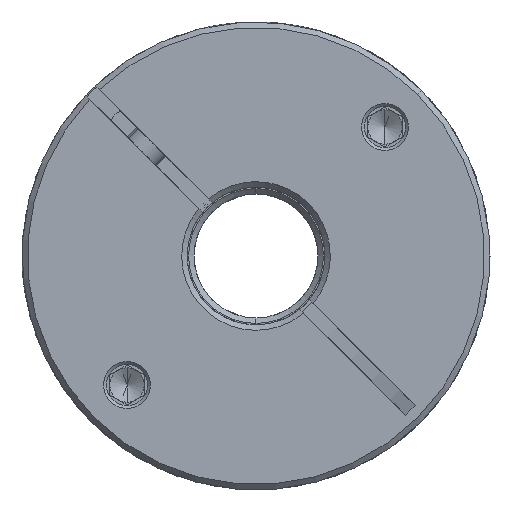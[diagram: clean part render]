
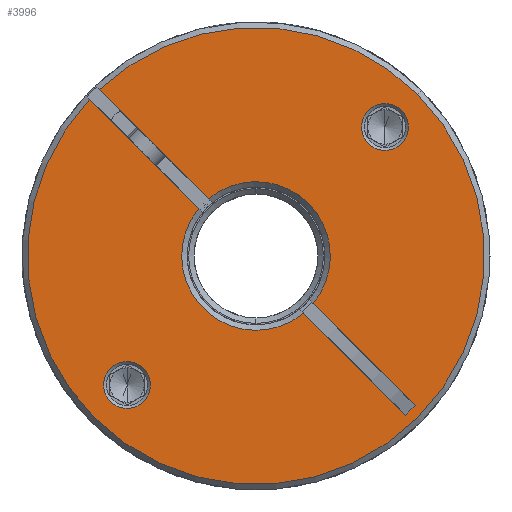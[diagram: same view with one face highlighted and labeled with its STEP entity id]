
A CAD part, front view. The second image highlights one B-rep face of the part: STEP entity #3996.
In plain terms, the highlighted planar face has unit normal (0, -1, 0).
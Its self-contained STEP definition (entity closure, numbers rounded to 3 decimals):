
#21 = VERTEX_POINT ( 'NONE', #18748 ) ;
#309 = CARTESIAN_POINT ( 'NONE',  ( 18.988, -67.045, 44.862 ) ) ;
#318 = ORIENTED_EDGE ( 'NONE', *, *, #1348, .T. ) ;
#447 = EDGE_CURVE ( 'NONE', #4393, #10721, #701, .T. ) ;
#610 = DIRECTION ( 'NONE',  ( 0., 1., 0. ) ) ;
#701 = LINE ( 'NONE', #1690, #19742 ) ;
#712 = VERTEX_POINT ( 'NONE', #11957 ) ;
#847 = ORIENTED_EDGE ( 'NONE', *, *, #16113, .T. ) ;
#848 = CARTESIAN_POINT ( 'NONE',  ( -2.735, -67.045, 68. ) ) ;
#978 = ORIENTED_EDGE ( 'NONE', *, *, #2399, .T. ) ;
#1004 = FACE_BOUND ( 'NONE', #16289, .T. ) ;
#1017 = VERTEX_POINT ( 'NONE', #21255 ) ;
#1144 = CARTESIAN_POINT ( 'NONE',  ( 4.162, -67.045, 59.689 ) ) ;
#1190 = CARTESIAN_POINT ( 'NONE',  ( 5.576, -67.045, 61.103 ) ) ;
#1337 = DIRECTION ( 'NONE',  ( 0.707, 0., 0.707 ) ) ;
#1348 = EDGE_CURVE ( 'NONE', #1017, #2615, #18585, .T. ) ;
#1384 = CARTESIAN_POINT ( 'NONE',  ( 18.988, -67.045, 44.862 ) ) ;
#1405 = VERTEX_POINT ( 'NONE', #9029 ) ;
#1513 = CARTESIAN_POINT ( 'NONE',  ( -19.069, -67.045, 51.666 ) ) ;
#1681 = EDGE_CURVE ( 'NONE', #3673, #9647, #12831, .T. ) ;
#1690 = CARTESIAN_POINT ( 'NONE',  ( -2.028, -67.045, 68.707 ) ) ;
#1787 = AXIS2_PLACEMENT_3D ( 'NONE', #848, #17427, #19110 ) ;
#2217 = ORIENTED_EDGE ( 'NONE', *, *, #447, .T. ) ;
#2399 = EDGE_CURVE ( 'NONE', #712, #4393, #18026, .T. ) ;
#2543 = ORIENTED_EDGE ( 'NONE', *, *, #5592, .T. ) ;
#2615 = VERTEX_POINT ( 'NONE', #11630 ) ;
#2654 = EDGE_CURVE ( 'NONE', #3931, #14508, #9132, .T. ) ;
#2860 = DIRECTION ( 'NONE',  ( 0.707, 0., 0.707 ) ) ;
#3142 = DIRECTION ( 'NONE',  ( 0., 1., 0. ) ) ;
#3223 = AXIS2_PLACEMENT_3D ( 'NONE', #4805, #3142, #13022 ) ;
#3385 = DIRECTION ( 'NONE',  ( 0.707, 0., -0.707 ) ) ;
#3673 = VERTEX_POINT ( 'NONE', #11686 ) ;
#3829 = DIRECTION ( 'NONE',  ( 0.707, 0., 0.707 ) ) ;
#3871 = ORIENTED_EDGE ( 'NONE', *, *, #14411, .T. ) ;
#3931 = VERTEX_POINT ( 'NONE', #13852 ) ;
#3947 = ORIENTED_EDGE ( 'NONE', *, *, #18180, .T. ) ;
#3996 = ADVANCED_FACE ( 'NONE', ( #1004, #9329, #13253 ), #8970, .T. ) ;
#4393 = VERTEX_POINT ( 'NONE', #1190 ) ;
#4509 = VECTOR ( 'NONE', #14992, 1000. ) ;
#4564 = DIRECTION ( 'NONE',  ( 0.707, 0., -0.707 ) ) ;
#4805 = CARTESIAN_POINT ( 'NONE',  ( -2.735, -67.045, 68. ) ) ;
#4922 = ORIENTED_EDGE ( 'NONE', *, *, #17337, .T. ) ;
#4955 = DIRECTION ( 'NONE',  ( 0., 1., 0. ) ) ;
#5162 = EDGE_CURVE ( 'NONE', #19528, #21, #13461, .T. ) ;
#5214 = CARTESIAN_POINT ( 'NONE',  ( 20.402, -67.045, 46.277 ) ) ;
#5245 = ORIENTED_EDGE ( 'NONE', *, *, #5162, .T. ) ;
#5434 = CIRCLE ( 'NONE', #11884, 10.8 ) ;
#5461 = EDGE_CURVE ( 'NONE', #14692, #1017, #16073, .T. ) ;
#5592 = EDGE_CURVE ( 'NONE', #14508, #3931, #12156, .T. ) ;
#5685 = CARTESIAN_POINT ( 'NONE',  ( -2.735, -67.045, 68. ) ) ;
#5924 = ORIENTED_EDGE ( 'NONE', *, *, #2654, .T. ) ;
#6502 = VECTOR ( 'NONE', #4564, 1000. ) ;
#6804 = CARTESIAN_POINT ( 'NONE',  ( -3.442, -67.045, 67.293 ) ) ;
#6845 = CARTESIAN_POINT ( 'NONE',  ( 16.003, -67.045, 86.738 ) ) ;
#7353 = DIRECTION ( 'NONE',  ( 0.707, 0., 0.707 ) ) ;
#7571 = EDGE_LOOP ( 'NONE', ( #2543, #5924 ) ) ;
#7765 = AXIS2_PLACEMENT_3D ( 'NONE', #11986, #13811, #20456 ) ;
#8057 = AXIS2_PLACEMENT_3D ( 'NONE', #8826, #610, #3829 ) ;
#8718 = EDGE_CURVE ( 'NONE', #21585, #19301, #9220, .T. ) ;
#8826 = CARTESIAN_POINT ( 'NONE',  ( 16.003, -67.045, 86.738 ) ) ;
#8970 = PLANE ( 'NONE',  #11996 ) ;
#9029 = CARTESIAN_POINT ( 'NONE',  ( -9.632, -67.045, 76.311 ) ) ;
#9132 = CIRCLE ( 'NONE', #7765, 3.4 ) ;
#9220 = LINE ( 'NONE', #14485, #19140 ) ;
#9329 = FACE_BOUND ( 'NONE', #7571, .T. ) ;
#9358 = DIRECTION ( 'NONE',  ( 0., -1., 0. ) ) ;
#9617 = CARTESIAN_POINT ( 'NONE',  ( -11.046, -67.045, 74.897 ) ) ;
#9647 = VERTEX_POINT ( 'NONE', #9617 ) ;
#10469 = CARTESIAN_POINT ( 'NONE',  ( -2.735, -67.045, 68. ) ) ;
#10721 = VERTEX_POINT ( 'NONE', #5214 ) ;
#11389 = ORIENTED_EDGE ( 'NONE', *, *, #12342, .T. ) ;
#11392 = CARTESIAN_POINT ( 'NONE',  ( -2.028, -67.045, 68.707 ) ) ;
#11630 = CARTESIAN_POINT ( 'NONE',  ( -25.493, -67.045, 92.172 ) ) ;
#11686 = CARTESIAN_POINT ( 'NONE',  ( -26.908, -67.045, 90.758 ) ) ;
#11884 = AXIS2_PLACEMENT_3D ( 'NONE', #17260, #18925, #12313 ) ;
#11941 = DIRECTION ( 'NONE',  ( -0.707, 0., -0.707 ) ) ;
#11957 = CARTESIAN_POINT ( 'NONE',  ( 4.902, -67.045, 75.637 ) ) ;
#11986 = CARTESIAN_POINT ( 'NONE',  ( -21.473, -67.045, 49.262 ) ) ;
#11996 = AXIS2_PLACEMENT_3D ( 'NONE', #5685, #14062, #7353 ) ;
#12091 = AXIS2_PLACEMENT_3D ( 'NONE', #10469, #12146, #12362 ) ;
#12146 = DIRECTION ( 'NONE',  ( 0., -1., 0. ) ) ;
#12156 = CIRCLE ( 'NONE', #14771, 3.4 ) ;
#12313 = DIRECTION ( 'NONE',  ( 0.707, 0., 0.707 ) ) ;
#12342 = EDGE_CURVE ( 'NONE', #21585, #9647, #19782, .T. ) ;
#12362 = DIRECTION ( 'NONE',  ( 0.707, 0., 0.707 ) ) ;
#12488 = VECTOR ( 'NONE', #11941, 1000. ) ;
#12831 = LINE ( 'NONE', #6804, #4509 ) ;
#12953 = DIRECTION ( 'NONE',  ( 0., -1., 0. ) ) ;
#13022 = DIRECTION ( 'NONE',  ( 0.707, 0., 0.707 ) ) ;
#13253 = FACE_OUTER_BOUND ( 'NONE', #21209, .T. ) ;
#13461 = CIRCLE ( 'NONE', #18220, 3.4 ) ;
#13811 = DIRECTION ( 'NONE',  ( 0., 1., 0. ) ) ;
#13852 = CARTESIAN_POINT ( 'NONE',  ( -23.878, -67.045, 46.858 ) ) ;
#14062 = DIRECTION ( 'NONE',  ( 0., -1., 0. ) ) ;
#14411 = EDGE_CURVE ( 'NONE', #2615, #1405, #15914, .T. ) ;
#14485 = CARTESIAN_POINT ( 'NONE',  ( -3.442, -67.045, 67.293 ) ) ;
#14508 = VERTEX_POINT ( 'NONE', #1513 ) ;
#14692 = VERTEX_POINT ( 'NONE', #14975 ) ;
#14754 = ORIENTED_EDGE ( 'NONE', *, *, #16025, .T. ) ;
#14771 = AXIS2_PLACEMENT_3D ( 'NONE', #16239, #16171, #2860 ) ;
#14913 = AXIS2_PLACEMENT_3D ( 'NONE', #21007, #9358, #21232 ) ;
#14975 = CARTESIAN_POINT ( 'NONE',  ( -26.211, -67.045, 44.524 ) ) ;
#14992 = DIRECTION ( 'NONE',  ( 0.707, 0., -0.707 ) ) ;
#15914 = LINE ( 'NONE', #11392, #6502 ) ;
#16025 = EDGE_CURVE ( 'NONE', #10721, #19301, #20325, .T. ) ;
#16073 = CIRCLE ( 'NONE', #20085, 33.2 ) ;
#16113 = EDGE_CURVE ( 'NONE', #1405, #712, #5434, .T. ) ;
#16171 = DIRECTION ( 'NONE',  ( 0., 1., 0. ) ) ;
#16239 = CARTESIAN_POINT ( 'NONE',  ( -21.473, -67.045, 49.262 ) ) ;
#16289 = EDGE_LOOP ( 'NONE', ( #5245, #3947 ) ) ;
#17260 = CARTESIAN_POINT ( 'NONE',  ( -2.735, -67.045, 68. ) ) ;
#17337 = EDGE_CURVE ( 'NONE', #3673, #14692, #19731, .T. ) ;
#17427 = DIRECTION ( 'NONE',  ( 0., 1., 0. ) ) ;
#17925 = CARTESIAN_POINT ( 'NONE',  ( -2.735, -67.045, 68. ) ) ;
#18026 = CIRCLE ( 'NONE', #3223, 10.8 ) ;
#18180 = EDGE_CURVE ( 'NONE', #21, #19528, #18386, .T. ) ;
#18220 = AXIS2_PLACEMENT_3D ( 'NONE', #6845, #4955, #18507 ) ;
#18329 = ORIENTED_EDGE ( 'NONE', *, *, #8718, .F. ) ;
#18386 = CIRCLE ( 'NONE', #8057, 3.4 ) ;
#18507 = DIRECTION ( 'NONE',  ( 0.707, 0., 0.707 ) ) ;
#18585 = CIRCLE ( 'NONE', #12091, 33.2 ) ;
#18748 = CARTESIAN_POINT ( 'NONE',  ( 13.599, -67.045, 84.334 ) ) ;
#18925 = DIRECTION ( 'NONE',  ( 0., 1., 0. ) ) ;
#19110 = DIRECTION ( 'NONE',  ( 0.707, 0., 0.707 ) ) ;
#19140 = VECTOR ( 'NONE', #19297, 1000. ) ;
#19297 = DIRECTION ( 'NONE',  ( 0.707, 0., -0.707 ) ) ;
#19301 = VERTEX_POINT ( 'NONE', #1384 ) ;
#19333 = ORIENTED_EDGE ( 'NONE', *, *, #5461, .T. ) ;
#19528 = VERTEX_POINT ( 'NONE', #20309 ) ;
#19731 = CIRCLE ( 'NONE', #14913, 33.2 ) ;
#19742 = VECTOR ( 'NONE', #3385, 1000. ) ;
#19782 = CIRCLE ( 'NONE', #1787, 10.8 ) ;
#20066 = ORIENTED_EDGE ( 'NONE', *, *, #1681, .F. ) ;
#20085 = AXIS2_PLACEMENT_3D ( 'NONE', #17925, #12953, #1337 ) ;
#20309 = CARTESIAN_POINT ( 'NONE',  ( 18.407, -67.045, 89.142 ) ) ;
#20325 = LINE ( 'NONE', #309, #12488 ) ;
#20456 = DIRECTION ( 'NONE',  ( 0.707, 0., 0.707 ) ) ;
#21007 = CARTESIAN_POINT ( 'NONE',  ( -2.735, -67.045, 68. ) ) ;
#21209 = EDGE_LOOP ( 'NONE', ( #20066, #4922, #19333, #318, #3871, #847, #978, #2217, #14754, #18329, #11389 ) ) ;
#21232 = DIRECTION ( 'NONE',  ( 0.707, 0., 0.707 ) ) ;
#21255 = CARTESIAN_POINT ( 'NONE',  ( 20.741, -67.045, 91.476 ) ) ;
#21585 = VERTEX_POINT ( 'NONE', #1144 ) ;
